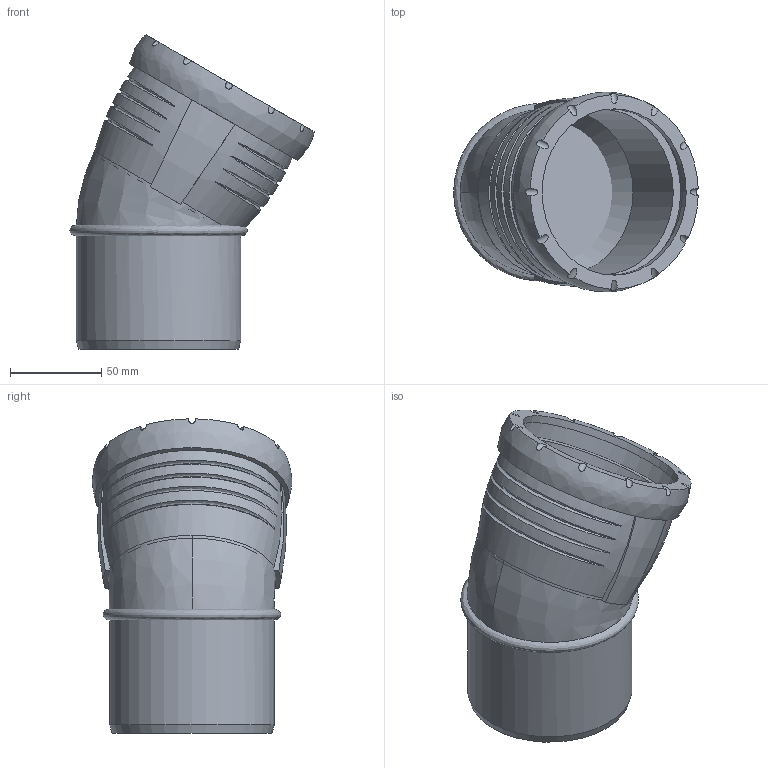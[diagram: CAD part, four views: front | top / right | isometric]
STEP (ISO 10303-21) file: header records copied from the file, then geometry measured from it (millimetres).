
FILE_DESCRIPTION(/* description */ (''),/* implementation_level */ '2;1');
FILE_NAME(/* name */ 'H:\Geberit-Teile\Export\Bogen_TEST\stp\393421.stp',/* time_stamp */ '2017-02-14T10:09:23+01:00',/* author */ ('seihe2'),/* organization */ (''),/* preprocessor_version */ 'ST-DEVELOPER v15.2',/* originating_system */ 'Autodesk Inventor 2014',/* authorisation */ '');
FILE_SCHEMA (('AUTOMOTIVE_DESIGN { 1 0 10303 214 3 1 1 }'));
Length unit declared in the file: millimetre
Products named in the file (1): 393421
Bounding box: 133.97 x 109.47 x 172.22 mm (x, y, z)
Volume: 347101.6 mm3; surface area: 108493.1 mm2
Topology: 2 solids, 2 shells, 56 faces, 139 edges, 98 vertices
Faces by surface type: bspline 27, cylinder 19, plane 8, cone 2
Full cylindrical faces by diameter (mm): 81.6 x1, 90.2 x1, 90.9 x1, 91.2 x1, 100.2 x1
Entity records: 4184 total; most frequent: CARTESIAN_POINT 2950, ORIENTED_EDGE 264, DIRECTION 180, EDGE_CURVE 131, VERTEX_POINT 97, AXIS2_PLACEMENT_3D 90, EDGE_LOOP 77, B_SPLINE_CURVE_WITH_KNOTS 70
